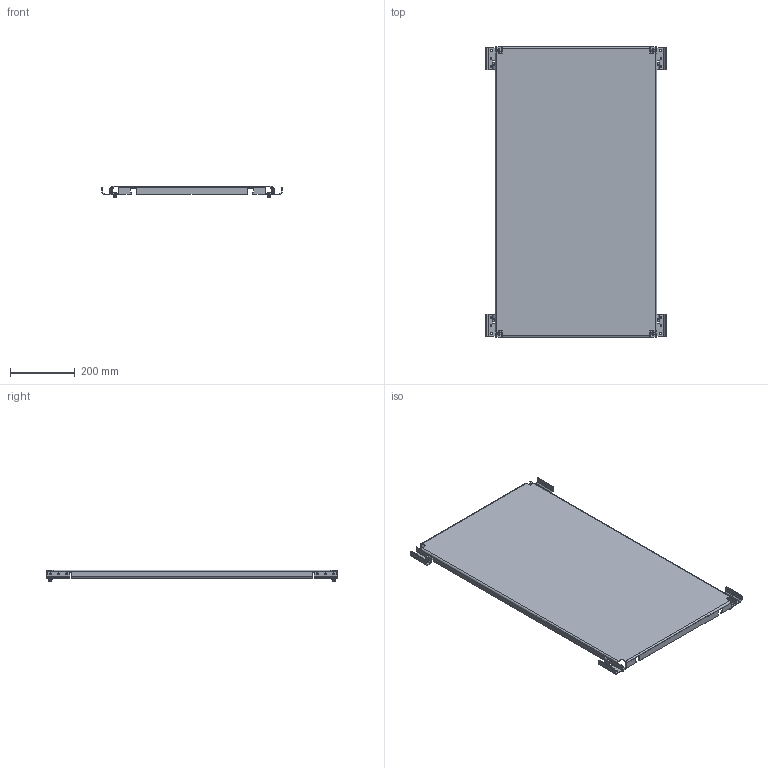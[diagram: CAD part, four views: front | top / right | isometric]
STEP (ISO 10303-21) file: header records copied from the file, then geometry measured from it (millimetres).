
FILE_DESCRIPTION (( 'STEP AP214' ), '1' );
FILE_NAME ('MSD 100.60 M ÑÁ Ïàíåëü ìîíòàæíàÿ ñåêöèîííàÿ â ñáîðå.STEP', '2024-06-14T12:08:06', ( '' ), ( '' ), 'SwSTEP 2.0', 'SolidWorks 2019', '' );
FILE_SCHEMA (( 'AUTOMOTIVE_DESIGN' ));
Length unit declared in the file: millimetre
Products named in the file (1): MSD 100.60 M ÑÁ Ïàíåëü ìîíòàæíàÿ ñåêöèîííàÿ â ñáîðå
Bounding box: 558 x 899 x 36.58 mm (x, y, z)
Volume: 1364913.1 mm3; surface area: 1107707 mm2
Topology: 13 solids, 13 shells, 790 faces, 1924 edges, 1176 vertices
Faces by surface type: plane 358, cylinder 344, torus 48, bspline 16, cone 16, sphere 8
Entity records: 37512 total; most frequent: CARTESIAN_POINT 10079, DIRECTION 3998, ORIENTED_EDGE 3832, EDGE_CURVE 1916, AXIS2_PLACEMENT_3D 1487, VERTEX_POINT 1176, VECTOR 1024, LINE 1024
